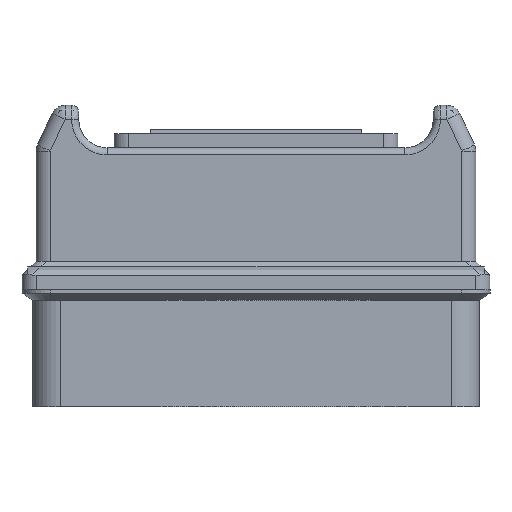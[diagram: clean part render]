
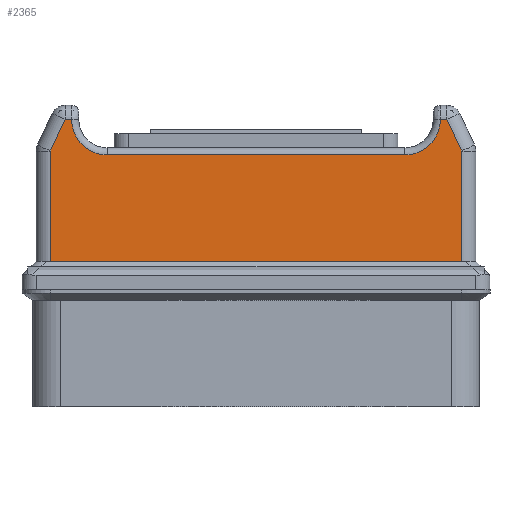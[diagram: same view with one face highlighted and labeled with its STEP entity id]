
A CAD part, left-side view. The second image highlights one B-rep face of the part: STEP entity #2365.
In plain terms, the highlighted planar face has unit normal (-1, 0, 0).
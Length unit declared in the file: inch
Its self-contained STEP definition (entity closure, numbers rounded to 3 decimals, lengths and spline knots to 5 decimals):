
#1371=CARTESIAN_POINT('',(-4.1875,3.625,-2.75));
#1372=VERTEX_POINT('',#1371);
#1396=CARTESIAN_POINT('',(-4.1875,-3.625,-2.75));
#1397=VERTEX_POINT('',#1396);
#1404=CARTESIAN_POINT('',(-4.1875,3.625,-2.75));
#1405=DIRECTION('',(0.0,-1.0,0.0));
#1406=VECTOR('',#1405,7.25);
#1407=LINE('',#1404,#1406);
#1408=EDGE_CURVE('',#1372,#1397,#1407,.T.);
#1505=CARTESIAN_POINT('',(-4.1875,-2.625,-0.875));
#1506=VERTEX_POINT('',#1505);
#1524=CARTESIAN_POINT('',(-4.1875,2.625,-0.875));
#1525=VERTEX_POINT('',#1524);
#1533=CARTESIAN_POINT('',(-4.1875,2.625,-0.875));
#1534=DIRECTION('',(0.0,-1.0,0.0));
#1535=VECTOR('',#1534,5.25);
#1536=LINE('',#1533,#1535);
#1537=EDGE_CURVE('',#1525,#1506,#1536,.T.);
#1549=CARTESIAN_POINT('',(-4.1875,3.25,-0.25));
#1550=VERTEX_POINT('',#1549);
#1558=CARTESIAN_POINT('',(-4.1875,2.625,-0.25));
#1559=DIRECTION('',(-1.0,0.,0.));
#1560=DIRECTION('',(0.,0.707,-0.707));
#1561=AXIS2_PLACEMENT_3D('',#1558,#1559,#1560);
#1562=CIRCLE('',#1561,0.625);
#1563=EDGE_CURVE('',#1550,#1525,#1562,.T.);
#2185=CARTESIAN_POINT('',(-4.1875,-3.25,-0.25));
#2186=VERTEX_POINT('',#2185);
#2226=CARTESIAN_POINT('',(-4.1875,-2.625,-0.25));
#2227=DIRECTION('',(-1.0,0.,0.));
#2228=DIRECTION('',(0.,-0.707,-0.707));
#2229=AXIS2_PLACEMENT_3D('',#2226,#2227,#2228);
#2230=CIRCLE('',#2229,0.625);
#2231=EDGE_CURVE('',#1506,#2186,#2230,.T.);
#2298=CARTESIAN_POINT('',(-4.1875,-3.36578,-0.25));
#2299=VERTEX_POINT('',#2298);
#2300=CARTESIAN_POINT('',(-4.1875,-3.25,-0.25));
#2301=DIRECTION('',(0.0,-1.0,0.0));
#2302=VECTOR('',#2301,0.11578);
#2303=LINE('',#2300,#2302);
#2304=EDGE_CURVE('',#2186,#2299,#2303,.T.);
#2317=CARTESIAN_POINT('',(-4.1875,3.875,0.0));
#2318=DIRECTION('',(-1.0,0.0,0.0));
#2319=DIRECTION('',(0.0,0.0,1.0));
#2320=AXIS2_PLACEMENT_3D('',#2317,#2318,#2319);
#2321=PLANE('',#2320);
#2322=ORIENTED_EDGE('',*,*,#2231,.F.);
#2323=ORIENTED_EDGE('',*,*,#1537,.F.);
#2324=ORIENTED_EDGE('',*,*,#1563,.F.);
#2325=CARTESIAN_POINT('',(-4.1875,3.36578,-0.25));
#2326=VERTEX_POINT('',#2325);
#2327=CARTESIAN_POINT('',(-4.1875,3.36578,-0.25));
#2328=DIRECTION('',(0.0,-1.0,0.0));
#2329=VECTOR('',#2328,0.11578);
#2330=LINE('',#2327,#2329);
#2331=EDGE_CURVE('',#2326,#1550,#2330,.T.);
#2332=ORIENTED_EDGE('',*,*,#2331,.F.);
#2333=CARTESIAN_POINT('',(-4.1875,3.625,-0.80546));
#2334=VERTEX_POINT('',#2333);
#2335=CARTESIAN_POINT('',(-4.1875,3.625,-0.80546));
#2336=DIRECTION('',(0.0,-0.423,0.906));
#2337=VECTOR('',#2336,0.61297);
#2338=LINE('',#2335,#2337);
#2339=EDGE_CURVE('',#2334,#2326,#2338,.T.);
#2340=ORIENTED_EDGE('',*,*,#2339,.F.);
#2341=CARTESIAN_POINT('',(-4.1875,3.625,-2.75));
#2342=DIRECTION('',(0.0,0.0,1.0));
#2343=VECTOR('',#2342,1.94454);
#2344=LINE('',#2341,#2343);
#2345=EDGE_CURVE('',#1372,#2334,#2344,.T.);
#2346=ORIENTED_EDGE('',*,*,#2345,.F.);
#2347=ORIENTED_EDGE('',*,*,#1408,.T.);
#2348=CARTESIAN_POINT('',(-4.1875,-3.625,-0.80546));
#2349=VERTEX_POINT('',#2348);
#2350=CARTESIAN_POINT('',(-4.1875,-3.625,-0.80546));
#2351=DIRECTION('',(0.0,0.0,-1.0));
#2352=VECTOR('',#2351,1.94454);
#2353=LINE('',#2350,#2352);
#2354=EDGE_CURVE('',#2349,#1397,#2353,.T.);
#2355=ORIENTED_EDGE('',*,*,#2354,.F.);
#2356=CARTESIAN_POINT('',(-4.1875,-3.36578,-0.25));
#2357=DIRECTION('',(0.0,-0.423,-0.906));
#2358=VECTOR('',#2357,0.61297);
#2359=LINE('',#2356,#2358);
#2360=EDGE_CURVE('',#2299,#2349,#2359,.T.);
#2361=ORIENTED_EDGE('',*,*,#2360,.F.);
#2362=ORIENTED_EDGE('',*,*,#2304,.F.);
#2363=EDGE_LOOP('',(#2322,#2323,#2324,#2332,#2340,#2346,#2347,#2355,#2361,#2362));
#2364=FACE_OUTER_BOUND('',#2363,.T.);
#2365=ADVANCED_FACE('',(#2364),#2321,.T.);
